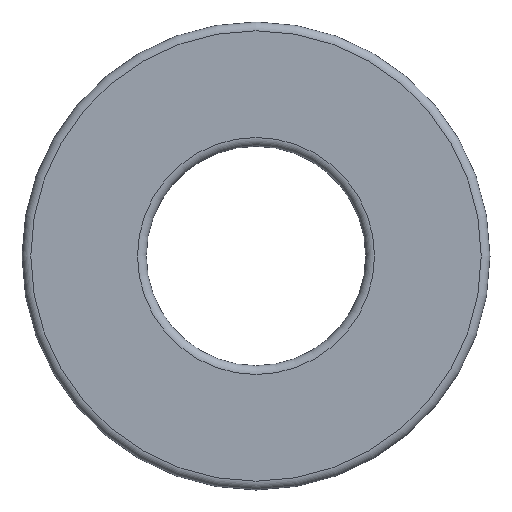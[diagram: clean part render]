
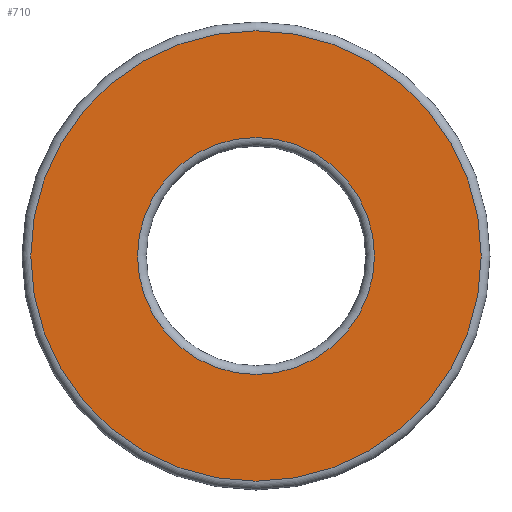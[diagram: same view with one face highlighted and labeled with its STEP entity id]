
A CAD part, left-side view. The second image highlights one B-rep face of the part: STEP entity #710.
In plain terms, the highlighted planar face has unit normal (-1, 0, 0).
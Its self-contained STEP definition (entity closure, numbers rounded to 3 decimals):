
#49=FACE_OUTER_BOUND('',#135,.T.);
#73=PLANE('',#832);
#109=FACE_BOUND('',#136,.T.);
#135=EDGE_LOOP('',(#572));
#136=EDGE_LOOP('',(#573));
#216=CIRCLE('',#828,15.4);
#219=CIRCLE('',#833,8.1);
#329=VERTEX_POINT('',#1314);
#332=VERTEX_POINT('',#1324);
#421=EDGE_CURVE('',#329,#329,#216,.T.);
#425=EDGE_CURVE('',#332,#332,#219,.T.);
#572=ORIENTED_EDGE('',*,*,#421,.F.);
#573=ORIENTED_EDGE('',*,*,#425,.F.);
#710=ADVANCED_FACE('',(#49,#109),#73,.T.);
#828=AXIS2_PLACEMENT_3D('',#1316,#1034,#1035);
#832=AXIS2_PLACEMENT_3D('',#1323,#1043,#1044);
#833=AXIS2_PLACEMENT_3D('',#1325,#1045,#1046);
#1034=DIRECTION('center_axis',(1.,0.,0.));
#1035=DIRECTION('ref_axis',(0.,-1.,0.));
#1043=DIRECTION('center_axis',(-1.,0.,0.));
#1044=DIRECTION('ref_axis',(0.,0.,1.));
#1045=DIRECTION('center_axis',(-1.,0.,0.));
#1046=DIRECTION('ref_axis',(0.,-1.,0.));
#1314=CARTESIAN_POINT('',(0.,0.,15.4));
#1316=CARTESIAN_POINT('Origin',(0.,0.,0.));
#1323=CARTESIAN_POINT('Origin',(0.,11.75,0.));
#1324=CARTESIAN_POINT('',(0.,0.,8.1));
#1325=CARTESIAN_POINT('Origin',(0.,0.,0.));
